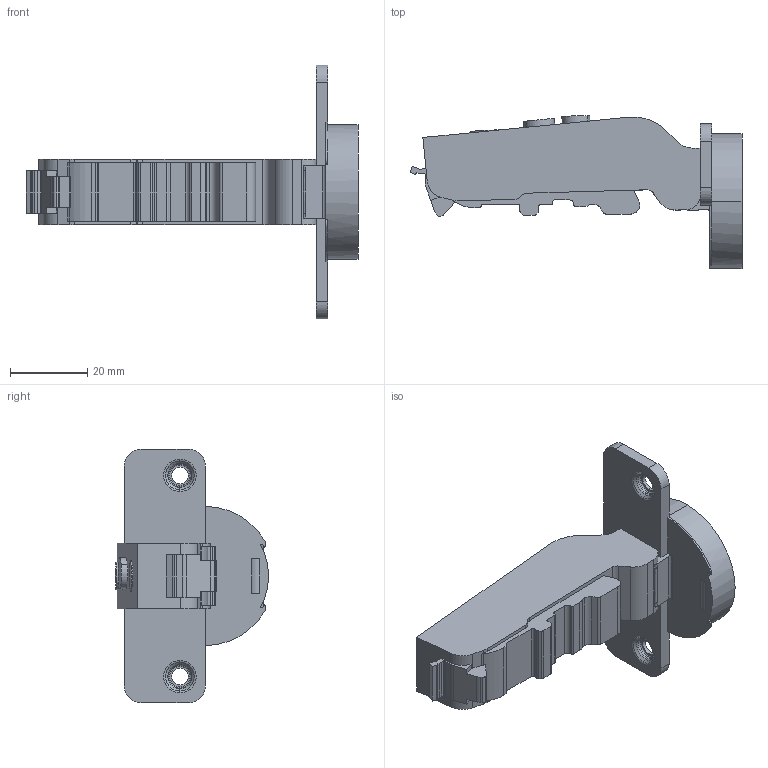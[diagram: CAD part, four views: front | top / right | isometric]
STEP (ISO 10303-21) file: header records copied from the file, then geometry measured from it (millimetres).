
FILE_DESCRIPTION (( 'STEP AP203' ), '1' );
FILE_NAME ('C81A8Q7FAB -DTC 3D close.STEP', '2024-11-29T08:19:15', ( '微软用户' ), ( '微软中国' ), 'SwSTEP 2.0', 'SolidWorks 2021', '' );
FILE_SCHEMA (( 'CONFIG_CONTROL_DESIGN' ));
Length unit declared in the file: millimetre
Products named in the file (1): C81A8Q7FAB -DTC 3D close
Bounding box: 85.79 x 39.55 x 65.6 mm (x, y, z)
Volume: 35718.2 mm3; surface area: 10874.2 mm2
Topology: 1 solids, 1 shells, 172 faces, 479 edges, 314 vertices
Faces by surface type: plane 76, cylinder 75, torus 16, cone 4, bspline 1
Entity records: 5670 total; most frequent: CARTESIAN_POINT 1015, DIRECTION 1000, ORIENTED_EDGE 958, EDGE_CURVE 479, AXIS2_PLACEMENT_3D 360, VERTEX_POINT 314, LINE 280, VECTOR 280
